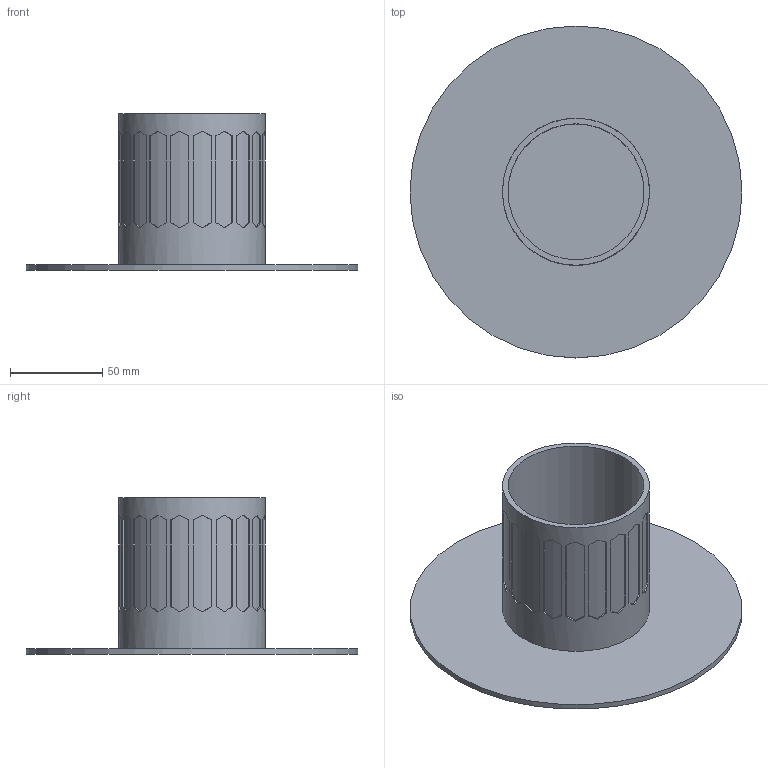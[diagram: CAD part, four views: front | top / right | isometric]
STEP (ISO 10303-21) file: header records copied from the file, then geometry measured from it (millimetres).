
FILE_DESCRIPTION(/* description */ (''),/* implementation_level */ '2;1');
FILE_NAME(/* name */ 'porta penne centro v2.step',/* time_stamp */ '2024-01-20T20:27:27+01:00',/* author */ (''),/* organization */ (''),/* preprocessor_version */ 'ST-DEVELOPER v20',/* originating_system */ 'Autodesk Translation Framework v12.14.0.127',/* authorisation */ '');
FILE_SCHEMA (('AUTOMOTIVE_DESIGN { 1 0 10303 214 3 1 1 }'));
Length unit declared in the file: millimetre
Products named in the file (1): porta penne centro
Bounding box: 180 x 180 x 85 mm (x, y, z)
Volume: 127726.3 mm3; surface area: 93776.4 mm2
Topology: 1 solids, 1 shells, 147 faces, 369 edges, 246 vertices
Faces by surface type: bspline 80, plane 44, cylinder 23
Full cylindrical faces by diameter (mm): 73.7 x1, 79.7 x1, 180 x1
Entity records: 5462 total; most frequent: CARTESIAN_POINT 2443, ORIENTED_EDGE 738, EDGE_CURVE 369, DIRECTION 351, VERTEX_POINT 246, LINE 203, VECTOR 203, EDGE_LOOP 169
